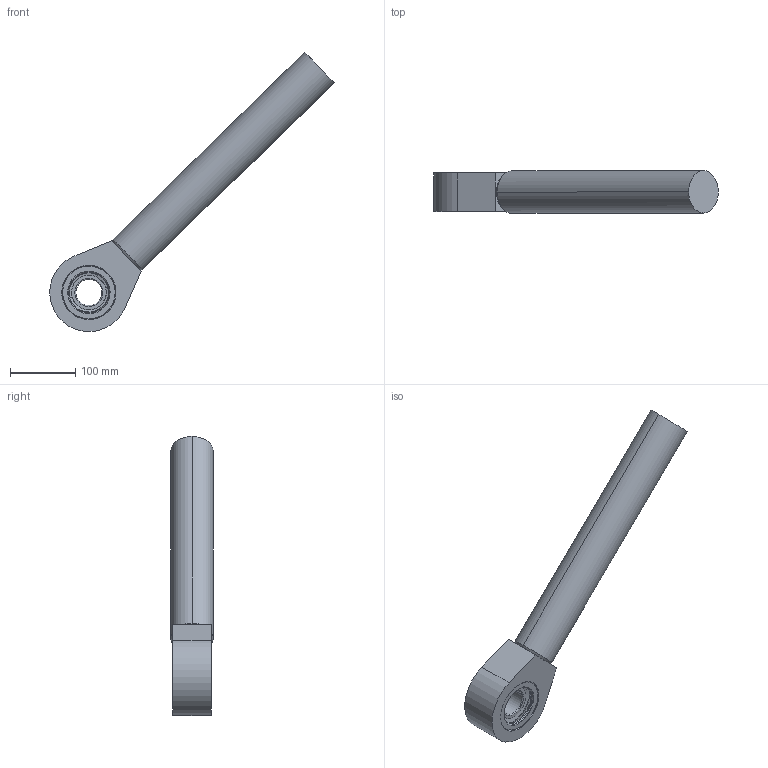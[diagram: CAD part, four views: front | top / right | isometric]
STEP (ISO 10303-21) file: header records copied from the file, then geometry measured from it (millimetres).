
FILE_DESCRIPTION(('CATIA V5 STEP Exchange','CAx-IF Rec.Pracs.--- Model Styling and Organization---1.2---2011-12-15','CAx-IF Rec.Pracs.--- Geometric and Assembly Validation Properties ---3.1---2011-10-19'),'2;1');
FILE_NAME('Z:\ROBOT\CATIA06\products\MC1000DL\Light_model\Step\145_J3Balancer_Push_Rod_MC1000DL-02.stp','2016-12-26T04:03:10+00:00',('none'),('none'),'Version 5-6 Release 2012','CATIA V5 STEP AP214','none');
FILE_SCHEMA(('AUTOMOTIVE_DESIGN { 1 0 10303 214 1 1 1 1 }'));
Length unit declared in the file: millimetre
Products named in the file (1): 145_J3Balancer_Push_Rod_MC1000DL-02
Bounding box: 435.77 x 65 x 427.66 mm (x, y, z)
Volume: 1967496.1 mm3; surface area: 192772.4 mm2
Topology: 5 solids, 6 shells, 116 faces, 232 edges, 138 vertices
Faces by surface type: cone 34, torus 28, plane 25, cylinder 25, sphere 4
Entity records: 2873 total; most frequent: ORIENTED_EDGE 464, CARTESIAN_POINT 444, DIRECTION 366, AXIS2_PLACEMENT_3D 232, EDGE_CURVE 232, CIRCLE 164, VERTEX_POINT 138, EDGE_LOOP 136
